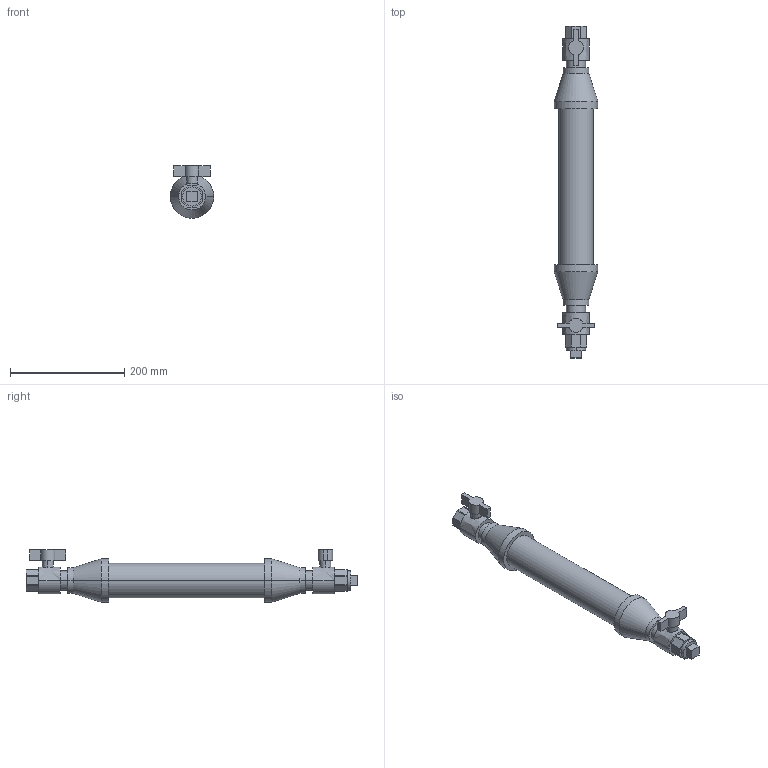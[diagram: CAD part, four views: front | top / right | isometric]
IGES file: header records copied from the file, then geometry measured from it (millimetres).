
Start section: SolidWorks IGES file using analytic representation for surfaces
Global section: file name: R:\AGF Eng Product Details\M5300 - COLLECTanDRAIN\Drawings\Website\M5300A.IGS; native system: SolidWorks 2013; preprocessor: SolidWorks 2013; author: RReed; date: 130215.111807; units: inch
Bounding box: 76.2 x 580.9 x 92.08 mm (x, y, z)
Volume: 678738.6 mm3; surface area: 194227.8 mm2
Topology: 3 solids, 3 shells, 109 faces, 254 edges, 164 vertices
Faces by surface type: revolution 58, plane 51
